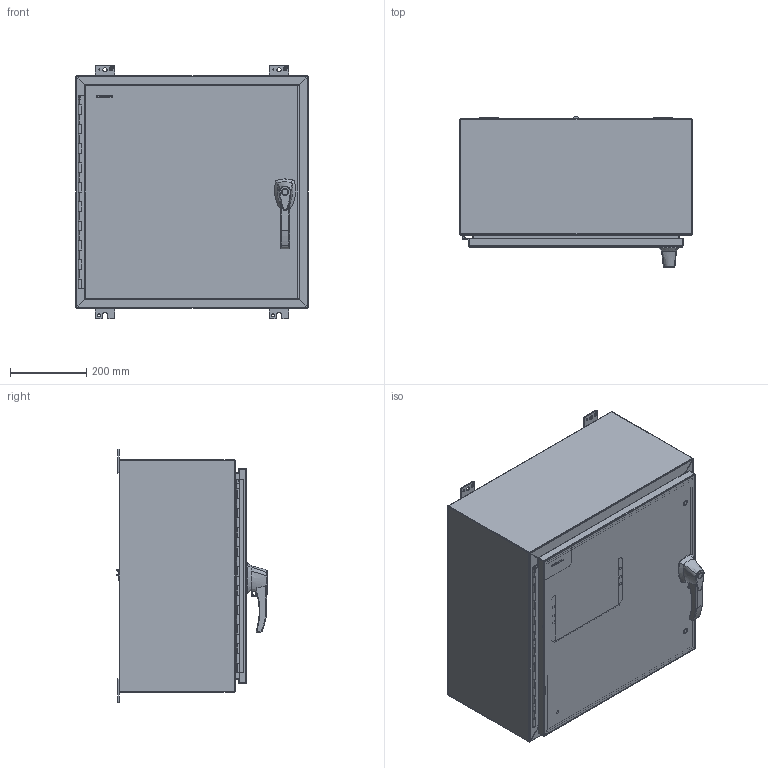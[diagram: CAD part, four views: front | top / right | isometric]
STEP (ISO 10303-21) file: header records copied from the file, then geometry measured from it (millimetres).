
FILE_DESCRIPTION(/* description */ ('Unknown'),/* implementation_level */ '2;1');
FILE_NAME(/* name */ 'HW242412SSHK',/* time_stamp */ '2018-12-04T15:27:36-05:00',/* author */ ('Unknown'),/* organization */ ('Unknown'),/* preprocessor_version */ 'ST-DEVELOPER v16.7',/* originating_system */ 'DEX',/* authorisation */ $);
FILE_SCHEMA (('AUTOMOTIVE_DESIGN {1 0 10303 214 3 1 1}'));
Length unit declared in the file: millimetre
Products named in the file (39): HW242412SSHK; STD26089; COM48610; COM48582; STD26258; FET07720; HNG10620-20B; COM70653-3; HNG10620-20C; STD26078; HNG10620-20P; SCS86713; COM70664-1; WAM30029; COM70663; SCS86714; ROL87452; NTS16699; HAN13068_NUT; KIT90518; WAF25059; NTS166105; LAB30005; KIT90256; NTS165305; NTS16535; QLB20184; LOC13320; PKT99; HAN86294; HAN86294_SCREW; HAN86294_NUT; HAN86294_WASHER; HAN_NUT; COM70220_oa_0; BUL10020
Assembly tree (57 placements, depth 3):
  HW242412SSHK
    STD26089  x4
    COM48610  x2
    COM48582
    STD26258
    FET07720  x4
    HNG10620-20B
    COM70653-3
      HNG10620-20C
      STD26078  x2
      COM70653-3
      STD26258
    HNG10620-20P
    SCS86713  x3
    COM70664-1
    WAM30029  x3
    COM70663  x3
      SCS86714
      ROL87452
      COM70663
    NTS16699  x2
    HAN13068_NUT
    KIT90518
      WAF25059
      NTS166105
      LAB30005
    KIT90256
      LAB30005
      NTS165305
      NTS16535
    QLB20184
    LOC13320  x2
    PKT99
    HAN86294
      HAN86294
      HAN86294_SCREW
      HAN86294_NUT
      HAN86294_WASHER  x2
      HAN_NUT
    COM70220_oa_0
    BUL10020
Bounding box: 609.6 x 395.39 x 666.75 mm (x, y, z)
Volume: 3530071.8 mm3; surface area: 3622668.5 mm2
Topology: 53 solids, 54 shells, 1546 faces, 4029 edges, 2654 vertices
Faces by surface type: plane 967, cylinder 342, bspline 172, cone 37, torus 24, sphere 4
Full cylindrical faces by diameter (mm): 4.47 x6, 4.763 x1, 4.976 x3, 5.893 x1, 5.918 x1, 6.35 x14, 6.502 x2, 6.731 x3, 7.805 x1, 7.938 x11, 8.001 x2, 8.128 x1, 8.255 x1, 8.382 x2, 8.433 x4, 8.484 x1, 8.89 x2, 9.525 x11, 10.008 x2, 10.49 x3, 11.049 x2, 11.113 x4, 11.303 x1, 11.989 x2, 12.954 x3, 13.335 x1, 15.24 x1, 15.824 x2, 16.002 x2, 16.51 x4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
Entity records: 38790 total; most frequent: CARTESIAN_POINT 12032, ORIENTED_EDGE 5414, DIRECTION 4721, EDGE_CURVE 2707, VERTEX_POINT 1803, LINE 1699, VECTOR 1699, AXIS2_PLACEMENT_3D 1511
